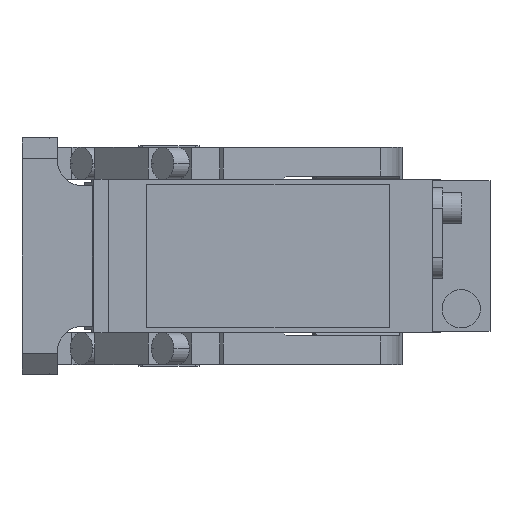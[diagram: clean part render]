
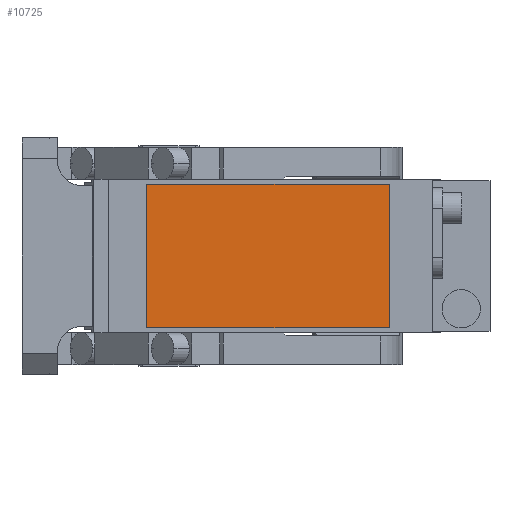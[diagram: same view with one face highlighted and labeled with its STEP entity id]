
A CAD part, front view. The second image highlights one B-rep face of the part: STEP entity #10725.
In plain terms, the highlighted planar face has unit normal (0, -1, 0).
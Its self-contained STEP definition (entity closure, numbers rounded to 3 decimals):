
#364 = CARTESIAN_POINT ( 'NONE',  ( -7., -280.5, 22.5 ) ) ;
#787 = DIRECTION ( 'NONE',  ( 0., -1., 0. ) ) ;
#1351 = VERTEX_POINT ( 'NONE', #14573 ) ;
#1583 = LINE ( 'NONE', #364, #11301 ) ;
#1602 = ORIENTED_EDGE ( 'NONE', *, *, #6582, .T. ) ;
#1654 = VERTEX_POINT ( 'NONE', #10575 ) ;
#2299 = CARTESIAN_POINT ( 'NONE',  ( 0., -280.5, 0. ) ) ;
#2300 = ORIENTED_EDGE ( 'NONE', *, *, #12382, .T. ) ;
#2310 = DIRECTION ( 'NONE',  ( 0., 0., 1. ) ) ;
#2454 = ORIENTED_EDGE ( 'NONE', *, *, #6029, .T. ) ;
#2545 = VECTOR ( 'NONE', #2310, 1000. ) ;
#2956 = DIRECTION ( 'NONE',  ( -1., 0., 0. ) ) ;
#4142 = VERTEX_POINT ( 'NONE', #11107 ) ;
#4396 = ORIENTED_EDGE ( 'NONE', *, *, #9097, .T. ) ;
#4598 = PLANE ( 'NONE',  #8504 ) ;
#5911 = CARTESIAN_POINT ( 'NONE',  ( 69., -280.5, 22.5 ) ) ;
#6029 = EDGE_CURVE ( 'NONE', #8891, #1654, #9961, .T. ) ;
#6582 = EDGE_CURVE ( 'NONE', #4142, #8891, #11477, .T. ) ;
#6623 = CARTESIAN_POINT ( 'NONE',  ( -7., -280.5, 22.5 ) ) ;
#7728 = CARTESIAN_POINT ( 'NONE',  ( -7., -280.5, -22.5 ) ) ;
#7847 = FACE_OUTER_BOUND ( 'NONE', #13305, .T. ) ;
#8504 = AXIS2_PLACEMENT_3D ( 'NONE', #2299, #787, #12529 ) ;
#8763 = VECTOR ( 'NONE', #2956, 1000. ) ;
#8891 = VERTEX_POINT ( 'NONE', #11984 ) ;
#9097 = EDGE_CURVE ( 'NONE', #1654, #1351, #1583, .T. ) ;
#9113 = DIRECTION ( 'NONE',  ( 1., 0., 0. ) ) ;
#9738 = DIRECTION ( 'NONE',  ( 0., 0., -1. ) ) ;
#9961 = LINE ( 'NONE', #6623, #8763 ) ;
#10575 = CARTESIAN_POINT ( 'NONE',  ( -7., -280.5, 22.5 ) ) ;
#10725 = ADVANCED_FACE ( 'NONE', ( #7847 ), #4598, .T. ) ;
#11107 = CARTESIAN_POINT ( 'NONE',  ( 69., -280.5, -22.5 ) ) ;
#11301 = VECTOR ( 'NONE', #9738, 1000. ) ;
#11393 = VECTOR ( 'NONE', #9113, 1000. ) ;
#11477 = LINE ( 'NONE', #5911, #2545 ) ;
#11509 = LINE ( 'NONE', #7728, #11393 ) ;
#11984 = CARTESIAN_POINT ( 'NONE',  ( 69., -280.5, 22.5 ) ) ;
#12382 = EDGE_CURVE ( 'NONE', #1351, #4142, #11509, .T. ) ;
#12529 = DIRECTION ( 'NONE',  ( 0., 0., -1. ) ) ;
#13305 = EDGE_LOOP ( 'NONE', ( #4396, #2300, #1602, #2454 ) ) ;
#14573 = CARTESIAN_POINT ( 'NONE',  ( -7., -280.5, -22.5 ) ) ;
